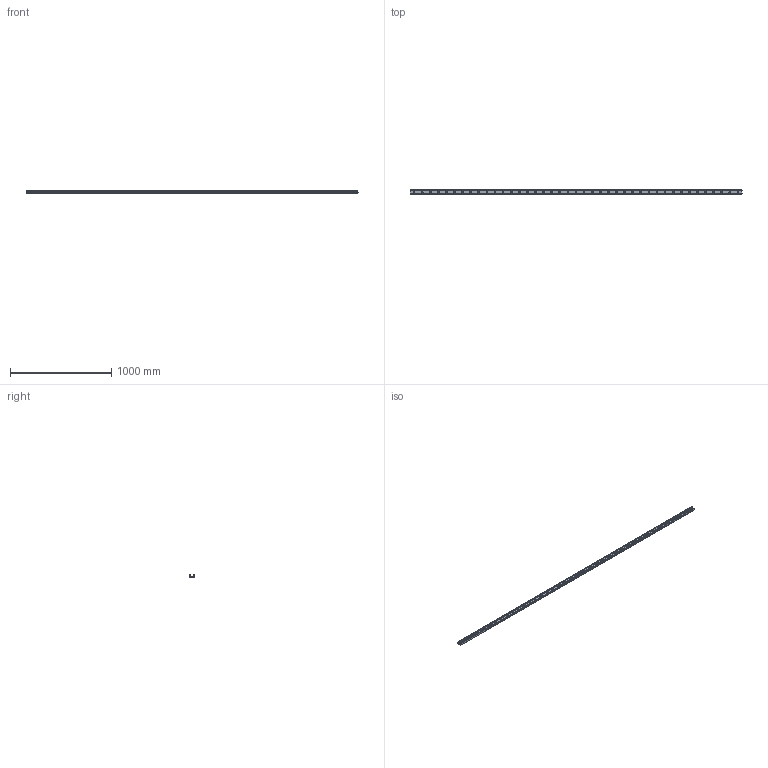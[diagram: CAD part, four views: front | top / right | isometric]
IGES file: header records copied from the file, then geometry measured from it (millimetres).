
Start section: SolidWorks IGES file using analytic representation for surfaces
Global section: file name: C:\Users\IanO\Desktop\43\L1943.ULV43_v2_20180121_IGES\L1943.ULV43-3280.igs; native system: SolidWorks 2017; preprocessor: SolidWorks 2017; author: IanO; date: 190121.090526; units: millimetre
Bounding box: 3280 x 43 x 21 mm (x, y, z)
Surface area: 508850.5 mm2 (no closed solid volume)
Topology: 0 solids, 0 shells, 190 faces, 3574 edges, 3574 vertices
Faces by surface type: revolution 177, bspline 13
